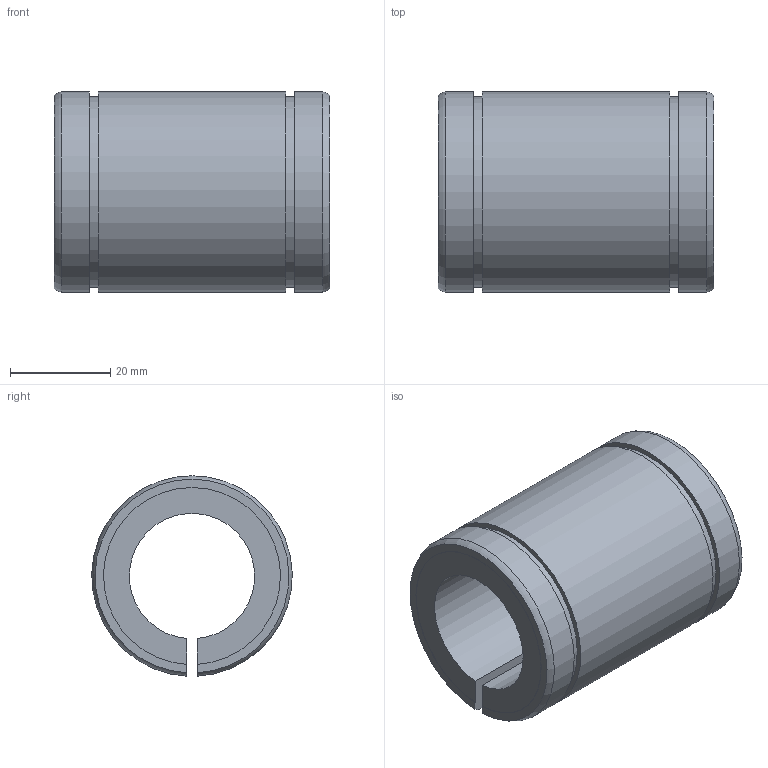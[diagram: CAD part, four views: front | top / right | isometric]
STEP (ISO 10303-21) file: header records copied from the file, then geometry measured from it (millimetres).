
FILE_DESCRIPTION((''),'2;1');
FILE_NAME('D:\製品 (図面)\カタログ用3D\リニアベアリング関連\STEP形式\L-ADJ\L25A-ADJ.stp','2010-06-02T17:37:03',('Tsuchiya'),(''),'Autodesk Inventor 10','Autodesk Inventor 10','');
FILE_SCHEMA(('AUTOMOTIVE_DESIGN { 1 0 10303 214 1 1 1 1 }'));
Length unit declared in the file: millimetre
Products named in the file (1): L25A-ADJ
Bounding box: 55 x 39.99 x 39.98 mm (x, y, z)
Volume: 40652.9 mm3; surface area: 13664.2 mm2
Topology: 1 solids, 1 shells, 20 faces, 54 edges, 36 vertices
Faces by surface type: plane 10, cylinder 8, torus 2
Entity records: 693 total; most frequent: CARTESIAN_POINT 153, DIRECTION 110, ORIENTED_EDGE 108, EDGE_CURVE 54, AXIS2_PLACEMENT_3D 39, VERTEX_POINT 36, VECTOR 32, LINE 32
